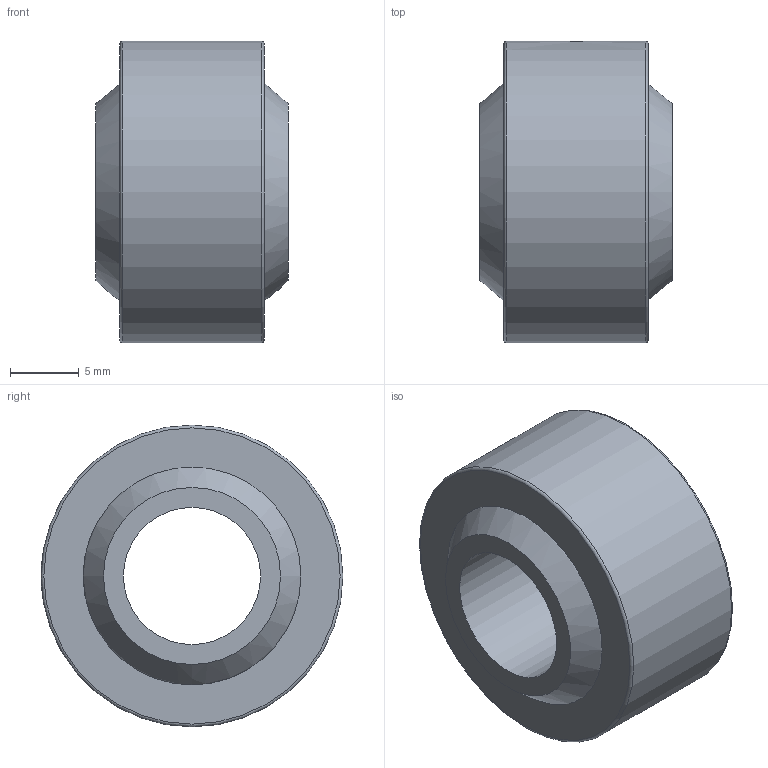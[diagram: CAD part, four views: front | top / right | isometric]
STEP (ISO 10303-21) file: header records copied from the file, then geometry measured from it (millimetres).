
FILE_DESCRIPTION( ( 'STEP AP203' ), '1' );
FILE_NAME( 'C:/Temp/Ganter_Step_05_03_2020/data/3_6/gn_648_8/gn_648_8_n/Ball joint GN 648.8-10-22-N.stp', '2020-03-12T14:14:24', ( 'License CC BY-ND 4.0' ), ( 'CADENAS' ), ' ', 'PARTsolutions', ' ' );
FILE_SCHEMA( ( 'CONFIG_CONTROL_DESIGN' ) );
Length unit declared in the file: millimetre
Products named in the file (3): Ball joint GN 648.8-10-22-N; _Ball joint GN 648.8-10-22-N-2; _Ball joint GN 648.8-10-22-N-1
Assembly tree (2 placements, depth 2):
  Ball joint GN 648.8-10-22-N
    _Ball joint GN 648.8-10-22-N-2
    _Ball joint GN 648.8-10-22-N-1
Bounding box: 14 x 22 x 22 mm (x, y, z)
Volume: 3468.5 mm3; surface area: 3091.1 mm2
Topology: 2 solids, 2 shells, 11 faces, 20 edges, 13 vertices
Faces by surface type: plane 4, cylinder 3, sphere 2, torus 2
Full cylindrical faces by diameter (mm): 1.7 x1, 10 x1, 22 x1
Entity records: 382 total; most frequent: CARTESIAN_POINT 69, DIRECTION 50, AXIS2_PLACEMENT_3D 25, EDGE_LOOP 24, ORIENTED_EDGE 24, FACE_OUTER_BOUND 18, CC_DESIGN_PERSON_AND_ORGANIZATION_ASSIGNMENT 13, EDGE_CURVE 12
